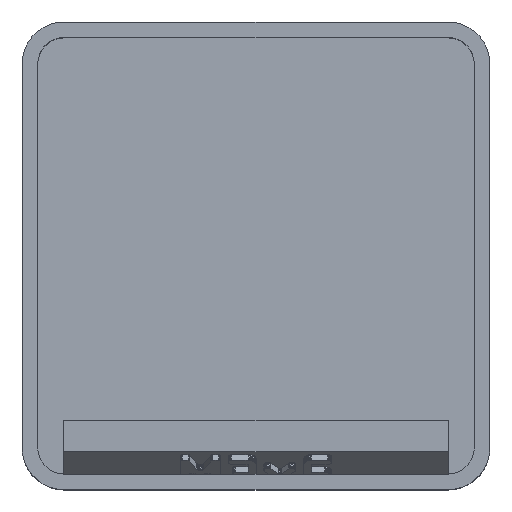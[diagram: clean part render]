
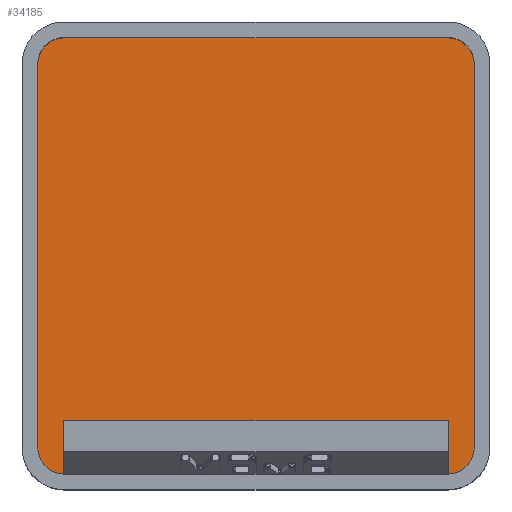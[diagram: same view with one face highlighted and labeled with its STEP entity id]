
A CAD part, top view. The second image highlights one B-rep face of the part: STEP entity #34185.
In plain terms, the highlighted planar face has unit normal (0, 0, 1).
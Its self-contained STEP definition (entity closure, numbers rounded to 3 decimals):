
#912 = PLANE('',#913);
#913 = AXIS2_PLACEMENT_3D('',#914,#915,#916);
#914 = CARTESIAN_POINT('',(-19.6,0.,25.));
#915 = DIRECTION('',(-1.,0.,0.));
#916 = DIRECTION('',(-0.,-1.,-0.));
#940 = CYLINDRICAL_SURFACE('',#941,2.35);
#941 = AXIS2_PLACEMENT_3D('',#942,#943,#944);
#942 = CARTESIAN_POINT('',(-17.25,17.25,5.95));
#943 = DIRECTION('',(-0.,-0.,1.));
#944 = DIRECTION('',(-1.,0.,0.));
#967 = PLANE('',#968);
#968 = AXIS2_PLACEMENT_3D('',#969,#970,#971);
#969 = CARTESIAN_POINT('',(0.,19.6,25.));
#970 = DIRECTION('',(0.,1.,0.));
#971 = DIRECTION('',(-1.,0.,0.));
#995 = CYLINDRICAL_SURFACE('',#996,2.35);
#996 = AXIS2_PLACEMENT_3D('',#997,#998,#999);
#997 = CARTESIAN_POINT('',(17.25,17.25,5.95));
#998 = DIRECTION('',(-0.,-0.,1.));
#999 = DIRECTION('',(-1.,0.,0.));
#1022 = PLANE('',#1023);
#1023 = AXIS2_PLACEMENT_3D('',#1024,#1025,#1026);
#1024 = CARTESIAN_POINT('',(19.6,0.,25.));
#1025 = DIRECTION('',(1.,0.,0.));
#1026 = DIRECTION('',(-0.,1.,0.));
#1050 = CYLINDRICAL_SURFACE('',#1051,2.35);
#1051 = AXIS2_PLACEMENT_3D('',#1052,#1053,#1054);
#1052 = CARTESIAN_POINT('',(17.25,-17.25,5.95));
#1053 = DIRECTION('',(-0.,-0.,1.));
#1054 = DIRECTION('',(-1.,0.,0.));
#1103 = CYLINDRICAL_SURFACE('',#1104,2.35);
#1104 = AXIS2_PLACEMENT_3D('',#1105,#1106,#1107);
#1105 = CARTESIAN_POINT('',(-17.25,-17.25,5.95));
#1106 = DIRECTION('',(-0.,-0.,1.));
#1107 = DIRECTION('',(-1.,0.,0.));
#12819 = EDGE_CURVE('',#12820,#12822,#12824,.T.);
#12820 = VERTEX_POINT('',#12821);
#12821 = CARTESIAN_POINT('',(-19.6,-17.25,5.95));
#12822 = VERTEX_POINT('',#12823);
#12823 = CARTESIAN_POINT('',(-19.6,17.25,5.95));
#12824 = SURFACE_CURVE('',#12825,(#12829,#12836),.PCURVE_S1.);
#12825 = LINE('',#12826,#12827);
#12826 = CARTESIAN_POINT('',(-19.6,0.,5.95));
#12827 = VECTOR('',#12828,1.);
#12828 = DIRECTION('',(0.,1.,0.));
#12829 = PCURVE('',#912,#12830);
#12830 = DEFINITIONAL_REPRESENTATION('',(#12831),#12835);
#12831 = LINE('',#12832,#12833);
#12832 = CARTESIAN_POINT('',(0.,-19.05));
#12833 = VECTOR('',#12834,1.);
#12834 = DIRECTION('',(-1.,0.));
#12835 = ( GEOMETRIC_REPRESENTATION_CONTEXT(2) 
PARAMETRIC_REPRESENTATION_CONTEXT() REPRESENTATION_CONTEXT('2D SPACE',''
  ) );
#12836 = PCURVE('',#12837,#12842);
#12837 = PLANE('',#12838);
#12838 = AXIS2_PLACEMENT_3D('',#12839,#12840,#12841);
#12839 = CARTESIAN_POINT('',(-17.25,-17.25,5.95));
#12840 = DIRECTION('',(0.,0.,-1.));
#12841 = DIRECTION('',(-1.,0.,0.));
#12842 = DEFINITIONAL_REPRESENTATION('',(#12843),#12847);
#12843 = LINE('',#12844,#12845);
#12844 = CARTESIAN_POINT('',(2.35,17.25));
#12845 = VECTOR('',#12846,1.);
#12846 = DIRECTION('',(0.,1.));
#12847 = ( GEOMETRIC_REPRESENTATION_CONTEXT(2) 
PARAMETRIC_REPRESENTATION_CONTEXT() REPRESENTATION_CONTEXT('2D SPACE',''
  ) );
#12894 = EDGE_CURVE('',#12895,#12820,#12897,.T.);
#12895 = VERTEX_POINT('',#12896);
#12896 = CARTESIAN_POINT('',(-17.25,-19.6,5.95));
#12897 = SURFACE_CURVE('',#12898,(#12903,#12910),.PCURVE_S1.);
#12898 = CIRCLE('',#12899,2.35);
#12899 = AXIS2_PLACEMENT_3D('',#12900,#12901,#12902);
#12900 = CARTESIAN_POINT('',(-17.25,-17.25,5.95));
#12901 = DIRECTION('',(0.,0.,-1.));
#12902 = DIRECTION('',(-1.,0.,0.));
#12903 = PCURVE('',#1103,#12904);
#12904 = DEFINITIONAL_REPRESENTATION('',(#12905),#12909);
#12905 = LINE('',#12906,#12907);
#12906 = CARTESIAN_POINT('',(6.283,0.));
#12907 = VECTOR('',#12908,1.);
#12908 = DIRECTION('',(-1.,0.));
#12909 = ( GEOMETRIC_REPRESENTATION_CONTEXT(2) 
PARAMETRIC_REPRESENTATION_CONTEXT() REPRESENTATION_CONTEXT('2D SPACE',''
  ) );
#12910 = PCURVE('',#12837,#12911);
#12911 = DEFINITIONAL_REPRESENTATION('',(#12912),#12916);
#12912 = CIRCLE('',#12913,2.35);
#12913 = AXIS2_PLACEMENT_2D('',#12914,#12915);
#12914 = CARTESIAN_POINT('',(0.,0.));
#12915 = DIRECTION('',(1.,0.));
#12916 = ( GEOMETRIC_REPRESENTATION_CONTEXT(2) 
PARAMETRIC_REPRESENTATION_CONTEXT() REPRESENTATION_CONTEXT('2D SPACE',''
  ) );
#12934 = PLANE('',#12935);
#12935 = AXIS2_PLACEMENT_3D('',#12936,#12937,#12938);
#12936 = CARTESIAN_POINT('',(0.,-19.6,25.));
#12937 = DIRECTION('',(0.,-1.,0.));
#12938 = DIRECTION('',(1.,0.,0.));
#13021 = EDGE_CURVE('',#13022,#13024,#13026,.T.);
#13022 = VERTEX_POINT('',#13023);
#13023 = CARTESIAN_POINT('',(19.6,-17.25,5.95));
#13024 = VERTEX_POINT('',#13025);
#13025 = CARTESIAN_POINT('',(17.25,-19.6,5.95));
#13026 = SURFACE_CURVE('',#13027,(#13032,#13039),.PCURVE_S1.);
#13027 = CIRCLE('',#13028,2.35);
#13028 = AXIS2_PLACEMENT_3D('',#13029,#13030,#13031);
#13029 = CARTESIAN_POINT('',(17.25,-17.25,5.95));
#13030 = DIRECTION('',(0.,0.,-1.));
#13031 = DIRECTION('',(-1.,0.,0.));
#13032 = PCURVE('',#1050,#13033);
#13033 = DEFINITIONAL_REPRESENTATION('',(#13034),#13038);
#13034 = LINE('',#13035,#13036);
#13035 = CARTESIAN_POINT('',(6.283,0.));
#13036 = VECTOR('',#13037,1.);
#13037 = DIRECTION('',(-1.,0.));
#13038 = ( GEOMETRIC_REPRESENTATION_CONTEXT(2) 
PARAMETRIC_REPRESENTATION_CONTEXT() REPRESENTATION_CONTEXT('2D SPACE',''
  ) );
#13039 = PCURVE('',#12837,#13040);
#13040 = DEFINITIONAL_REPRESENTATION('',(#13041),#13045);
#13041 = CIRCLE('',#13042,2.35);
#13042 = AXIS2_PLACEMENT_2D('',#13043,#13044);
#13043 = CARTESIAN_POINT('',(-34.5,0.));
#13044 = DIRECTION('',(1.,0.));
#13045 = ( GEOMETRIC_REPRESENTATION_CONTEXT(2) 
PARAMETRIC_REPRESENTATION_CONTEXT() REPRESENTATION_CONTEXT('2D SPACE',''
  ) );
#13119 = EDGE_CURVE('',#13022,#13120,#13122,.T.);
#13120 = VERTEX_POINT('',#13121);
#13121 = CARTESIAN_POINT('',(19.6,17.25,5.95));
#13122 = SURFACE_CURVE('',#13123,(#13127,#13134),.PCURVE_S1.);
#13123 = LINE('',#13124,#13125);
#13124 = CARTESIAN_POINT('',(19.6,0.,5.95));
#13125 = VECTOR('',#13126,1.);
#13126 = DIRECTION('',(0.,1.,0.));
#13127 = PCURVE('',#1022,#13128);
#13128 = DEFINITIONAL_REPRESENTATION('',(#13129),#13133);
#13129 = LINE('',#13130,#13131);
#13130 = CARTESIAN_POINT('',(0.,-19.05));
#13131 = VECTOR('',#13132,1.);
#13132 = DIRECTION('',(1.,0.));
#13133 = ( GEOMETRIC_REPRESENTATION_CONTEXT(2) 
PARAMETRIC_REPRESENTATION_CONTEXT() REPRESENTATION_CONTEXT('2D SPACE',''
  ) );
#13134 = PCURVE('',#12837,#13135);
#13135 = DEFINITIONAL_REPRESENTATION('',(#13136),#13140);
#13136 = LINE('',#13137,#13138);
#13137 = CARTESIAN_POINT('',(-36.85,17.25));
#13138 = VECTOR('',#13139,1.);
#13139 = DIRECTION('',(0.,1.));
#13140 = ( GEOMETRIC_REPRESENTATION_CONTEXT(2) 
PARAMETRIC_REPRESENTATION_CONTEXT() REPRESENTATION_CONTEXT('2D SPACE',''
  ) );
#13167 = EDGE_CURVE('',#13168,#13120,#13170,.T.);
#13168 = VERTEX_POINT('',#13169);
#13169 = CARTESIAN_POINT('',(17.25,19.6,5.95));
#13170 = SURFACE_CURVE('',#13171,(#13176,#13183),.PCURVE_S1.);
#13171 = CIRCLE('',#13172,2.35);
#13172 = AXIS2_PLACEMENT_3D('',#13173,#13174,#13175);
#13173 = CARTESIAN_POINT('',(17.25,17.25,5.95));
#13174 = DIRECTION('',(0.,0.,-1.));
#13175 = DIRECTION('',(-1.,0.,0.));
#13176 = PCURVE('',#995,#13177);
#13177 = DEFINITIONAL_REPRESENTATION('',(#13178),#13182);
#13178 = LINE('',#13179,#13180);
#13179 = CARTESIAN_POINT('',(6.283,0.));
#13180 = VECTOR('',#13181,1.);
#13181 = DIRECTION('',(-1.,0.));
#13182 = ( GEOMETRIC_REPRESENTATION_CONTEXT(2) 
PARAMETRIC_REPRESENTATION_CONTEXT() REPRESENTATION_CONTEXT('2D SPACE',''
  ) );
#13183 = PCURVE('',#12837,#13184);
#13184 = DEFINITIONAL_REPRESENTATION('',(#13185),#13189);
#13185 = CIRCLE('',#13186,2.35);
#13186 = AXIS2_PLACEMENT_2D('',#13187,#13188);
#13187 = CARTESIAN_POINT('',(-34.5,34.5));
#13188 = DIRECTION('',(1.,0.));
#13189 = ( GEOMETRIC_REPRESENTATION_CONTEXT(2) 
PARAMETRIC_REPRESENTATION_CONTEXT() REPRESENTATION_CONTEXT('2D SPACE',''
  ) );
#13217 = EDGE_CURVE('',#13218,#13168,#13220,.T.);
#13218 = VERTEX_POINT('',#13219);
#13219 = CARTESIAN_POINT('',(-17.25,19.6,5.95));
#13220 = SURFACE_CURVE('',#13221,(#13225,#13232),.PCURVE_S1.);
#13221 = LINE('',#13222,#13223);
#13222 = CARTESIAN_POINT('',(0.,19.6,5.95));
#13223 = VECTOR('',#13224,1.);
#13224 = DIRECTION('',(1.,0.,0.));
#13225 = PCURVE('',#967,#13226);
#13226 = DEFINITIONAL_REPRESENTATION('',(#13227),#13231);
#13227 = LINE('',#13228,#13229);
#13228 = CARTESIAN_POINT('',(0.,-19.05));
#13229 = VECTOR('',#13230,1.);
#13230 = DIRECTION('',(-1.,0.));
#13231 = ( GEOMETRIC_REPRESENTATION_CONTEXT(2) 
PARAMETRIC_REPRESENTATION_CONTEXT() REPRESENTATION_CONTEXT('2D SPACE',''
  ) );
#13232 = PCURVE('',#12837,#13233);
#13233 = DEFINITIONAL_REPRESENTATION('',(#13234),#13238);
#13234 = LINE('',#13235,#13236);
#13235 = CARTESIAN_POINT('',(-17.25,36.85));
#13236 = VECTOR('',#13237,1.);
#13237 = DIRECTION('',(-1.,0.));
#13238 = ( GEOMETRIC_REPRESENTATION_CONTEXT(2) 
PARAMETRIC_REPRESENTATION_CONTEXT() REPRESENTATION_CONTEXT('2D SPACE',''
  ) );
#13266 = EDGE_CURVE('',#12822,#13218,#13267,.T.);
#13267 = SURFACE_CURVE('',#13268,(#13273,#13280),.PCURVE_S1.);
#13268 = CIRCLE('',#13269,2.35);
#13269 = AXIS2_PLACEMENT_3D('',#13270,#13271,#13272);
#13270 = CARTESIAN_POINT('',(-17.25,17.25,5.95));
#13271 = DIRECTION('',(0.,0.,-1.));
#13272 = DIRECTION('',(-1.,0.,0.));
#13273 = PCURVE('',#940,#13274);
#13274 = DEFINITIONAL_REPRESENTATION('',(#13275),#13279);
#13275 = LINE('',#13276,#13277);
#13276 = CARTESIAN_POINT('',(6.283,0.));
#13277 = VECTOR('',#13278,1.);
#13278 = DIRECTION('',(-1.,0.));
#13279 = ( GEOMETRIC_REPRESENTATION_CONTEXT(2) 
PARAMETRIC_REPRESENTATION_CONTEXT() REPRESENTATION_CONTEXT('2D SPACE',''
  ) );
#13280 = PCURVE('',#12837,#13281);
#13281 = DEFINITIONAL_REPRESENTATION('',(#13282),#13286);
#13282 = CIRCLE('',#13283,2.35);
#13283 = AXIS2_PLACEMENT_2D('',#13284,#13285);
#13284 = CARTESIAN_POINT('',(0.,34.5));
#13285 = DIRECTION('',(1.,0.));
#13286 = ( GEOMETRIC_REPRESENTATION_CONTEXT(2) 
PARAMETRIC_REPRESENTATION_CONTEXT() REPRESENTATION_CONTEXT('2D SPACE',''
  ) );
#34185 = ADVANCED_FACE('',(#34186),#12837,.F.);
#34186 = FACE_BOUND('',#34187,.T.);
#34187 = EDGE_LOOP('',(#34188,#34189,#34190,#34211,#34212,#34213,#34214,
    #34215));
#34188 = ORIENTED_EDGE('',*,*,#12819,.F.);
#34189 = ORIENTED_EDGE('',*,*,#12894,.F.);
#34190 = ORIENTED_EDGE('',*,*,#34191,.T.);
#34191 = EDGE_CURVE('',#12895,#13024,#34192,.T.);
#34192 = SURFACE_CURVE('',#34193,(#34197,#34204),.PCURVE_S1.);
#34193 = LINE('',#34194,#34195);
#34194 = CARTESIAN_POINT('',(0.,-19.6,5.95));
#34195 = VECTOR('',#34196,1.);
#34196 = DIRECTION('',(1.,0.,0.));
#34197 = PCURVE('',#12837,#34198);
#34198 = DEFINITIONAL_REPRESENTATION('',(#34199),#34203);
#34199 = LINE('',#34200,#34201);
#34200 = CARTESIAN_POINT('',(-17.25,-2.35));
#34201 = VECTOR('',#34202,1.);
#34202 = DIRECTION('',(-1.,0.));
#34203 = ( GEOMETRIC_REPRESENTATION_CONTEXT(2) 
PARAMETRIC_REPRESENTATION_CONTEXT() REPRESENTATION_CONTEXT('2D SPACE',''
  ) );
#34204 = PCURVE('',#12934,#34205);
#34205 = DEFINITIONAL_REPRESENTATION('',(#34206),#34210);
#34206 = LINE('',#34207,#34208);
#34207 = CARTESIAN_POINT('',(0.,-19.05));
#34208 = VECTOR('',#34209,1.);
#34209 = DIRECTION('',(1.,0.));
#34210 = ( GEOMETRIC_REPRESENTATION_CONTEXT(2) 
PARAMETRIC_REPRESENTATION_CONTEXT() REPRESENTATION_CONTEXT('2D SPACE',''
  ) );
#34211 = ORIENTED_EDGE('',*,*,#13021,.F.);
#34212 = ORIENTED_EDGE('',*,*,#13119,.T.);
#34213 = ORIENTED_EDGE('',*,*,#13167,.F.);
#34214 = ORIENTED_EDGE('',*,*,#13217,.F.);
#34215 = ORIENTED_EDGE('',*,*,#13266,.F.);
